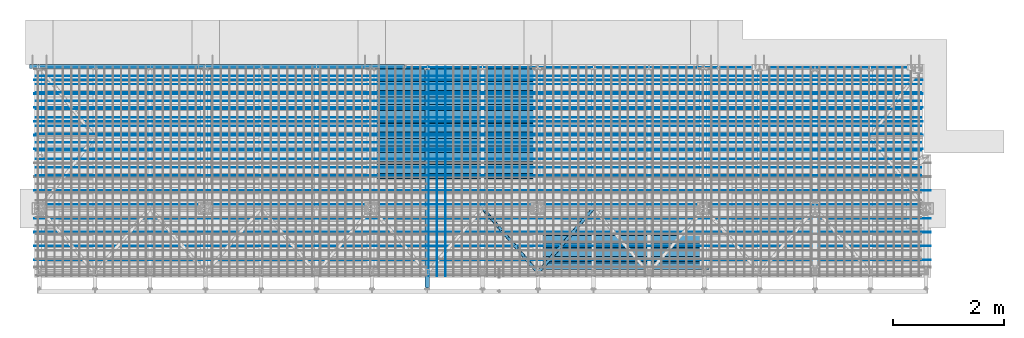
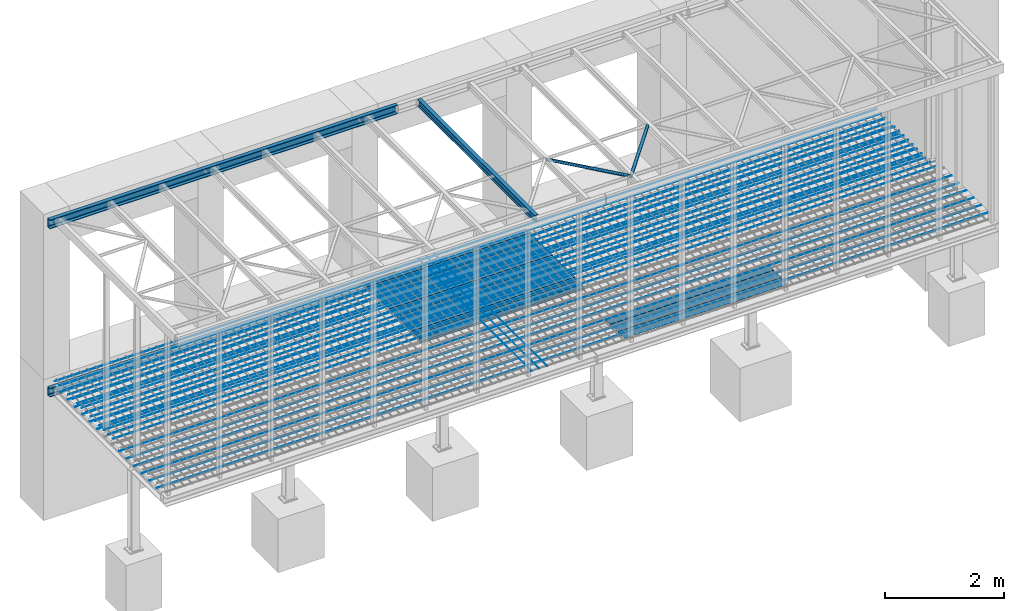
# One storey, part 6 of 26: 37 beams, 37 elements without a shape of their own.
"""IFC2X3 building model written with IfcOpenShell, lengths in millimetres."""

from ifc_helpers import new_model, si_unit, frame, origin_with_axes, origin_2d_with_axis, place, context, subcontext, project, spatial, polyline, circle, hollow_circle, i_section, u_section, outline, extrude, boolean, clip, halfspace, material, type_object, element, aggregate, save


model = new_model("IFC2X3")

# Units and contexts
model_context = context("Model", 3, precision=1e-05, world=origin_with_axes())
body_context = subcontext(model_context, "Body", "Model", "MODEL_VIEW")
ifc_project = project(units=[si_unit("LENGTHUNIT", "METRE", prefix="MILLI"), si_unit("AREAUNIT", "SQUARE_METRE"), si_unit("VOLUMEUNIT", "CUBIC_METRE"), si_unit("MASSUNIT", "GRAM", prefix="KILO"), si_unit("TIMEUNIT", "SECOND"), si_unit("PLANEANGLEUNIT", "RADIAN"), si_unit("SOLIDANGLEUNIT", "STERADIAN"), si_unit("THERMODYNAMICTEMPERATUREUNIT", "DEGREE_CELSIUS"), si_unit("LUMINOUSINTENSITYUNIT", "LUMEN")], contexts=[model_context])

# Site, building, storey
site_placement = place(None, origin_with_axes())
site = spatial("IfcSite", under=ifc_project, at=site_placement, Name="Undefined", CompositionType="ELEMENT")
building_placement = place(site_placement, origin_with_axes())
building = spatial("IfcBuilding", under=site, at=building_placement, Name="Undefined", CompositionType="ELEMENT")
storey_placement = place(building_placement, origin_with_axes())
storey = spatial("IfcBuildingStorey", under=building, at=storey_placement, Name="Undefined", CompositionType="ELEMENT", Elevation=0.0)

# Assembly, beam
assembly_1_placement = place(storey_placement, origin_with_axes())
assembly_1 = element("IfcElementAssembly", 1, at=assembly_1_placement, inside=storey, Name="Steel Assembly", AssemblyPlace="NOTDEFINED", PredefinedType="RIGID_FRAME")
ifc_material = material(Name="STEEL/S235JR")
beam_type_1 = type_object("IfcBeamType", Name="D8", PredefinedType="NOTDEFINED")
beam_1_placement = place(assembly_1_placement, frame((7377.5, 3814.99758213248, -49.0), z_axis=(0.0, 0.0, 1.0), x_axis=(0.0, -1.0, 0.0)))
beam_1 = element("IfcBeam", 2, at=beam_1_placement, type_object=beam_type_1, material=ifc_material, Name="VÝSTUZ PLECHODOSKA", ObjectType="D8", context=body_context, shape_type="SweptSolid", body=[
    extrude(circle(Radius=4.0, at=origin_2d_with_axis()), frame((3779.99758213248, 0.0, 0.0), z_axis=(-1.0, 0.0, 0.0), x_axis=(0.0, -1.0, 0.0)), (0.0, 0.0, 1.0), 3780.0),
])
aggregate(assembly_1, [beam_1])

assembly_2_placement = place(storey_placement, origin_with_axes())
assembly_2 = element("IfcElementAssembly", 3, at=assembly_2_placement, inside=storey, Name="Steel Assembly", AssemblyPlace="NOTDEFINED", PredefinedType="RIGID_FRAME")
beam_2_placement = place(assembly_2_placement, frame((7227.5, 3814.99758213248, -49.0), z_axis=(0.0, 0.0, 1.0), x_axis=(0.0, -1.0, 0.0)))
beam_2 = element("IfcBeam", 4, at=beam_2_placement, type_object=beam_type_1, material=ifc_material, Name="VÝSTUZ PLECHODOSKA", ObjectType="D8", context=body_context, shape_type="SweptSolid", body=[
    extrude(circle(Radius=4.0, at=origin_2d_with_axis()), frame((3779.99758213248, 0.0, 0.0), z_axis=(-1.0, 0.0, 0.0), x_axis=(0.0, -1.0, 0.0)), (0.0, 0.0, 1.0), 3780.0),
])
aggregate(assembly_2, [beam_2])

assembly_3_placement = place(storey_placement, origin_with_axes())
assembly_3 = element("IfcElementAssembly", 5, at=assembly_3_placement, inside=storey, Name="Steel Assembly", AssemblyPlace="NOTDEFINED", PredefinedType="RIGID_FRAME")
beam_3_placement = place(assembly_3_placement, frame((7077.5, 3814.99758213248, -49.0), z_axis=(0.0, 0.0, 1.0), x_axis=(0.0, -1.0, 0.0)))
beam_3 = element("IfcBeam", 6, at=beam_3_placement, type_object=beam_type_1, material=ifc_material, Name="VÝSTUZ PLECHODOSKA", ObjectType="D8", context=body_context, shape_type="SweptSolid", body=[
    extrude(circle(Radius=4.0, at=origin_2d_with_axis()), frame((3779.99758213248, 0.0, 0.0), z_axis=(-1.0, 0.0, 0.0), x_axis=(0.0, -1.0, 0.0)), (0.0, 0.0, 1.0), 3780.0),
])
aggregate(assembly_3, [beam_3])

assembly_4_placement = place(storey_placement, origin_with_axes())
assembly_4 = element("IfcElementAssembly", 7, at=assembly_4_placement, inside=storey, Name="Steel Assembly", AssemblyPlace="NOTDEFINED", PredefinedType="RIGID_FRAME")
beam_4_placement = place(assembly_4_placement, frame((-15.0, 1849.99758213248, -57.0), z_axis=(0.0, 0.0, 1.0), x_axis=(1.0, 0.0, 0.0)))
beam_4 = element("IfcBeam", 8, at=beam_4_placement, type_object=beam_type_1, material=ifc_material, Name="VÝSTUZ PLECHODOSKA", ObjectType="D8", context=body_context, shape_type="SweptSolid", body=[
    extrude(circle(Radius=4.0, at=origin_2d_with_axis()), frame((15985.0, 0.0, 0.0), z_axis=(-1.0, 0.0, 0.0), x_axis=(0.0, -1.0, 0.0)), (0.0, 0.0, 1.0), 15985.0),
])
aggregate(assembly_4, [beam_4])

assembly_5_placement = place(storey_placement, origin_with_axes())
assembly_5 = element("IfcElementAssembly", 9, at=assembly_5_placement, inside=storey, Name="Steel Assembly", AssemblyPlace="NOTDEFINED", PredefinedType="RIGID_FRAME")
beam_5_placement = place(assembly_5_placement, frame((-15.0, 1999.99758213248, -57.0), z_axis=(0.0, 0.0, 1.0), x_axis=(1.0, 0.0, 0.0)))
beam_5 = element("IfcBeam", 10, at=beam_5_placement, type_object=beam_type_1, material=ifc_material, Name="VÝSTUZ PLECHODOSKA", ObjectType="D8", context=body_context, shape_type="SweptSolid", body=[
    extrude(circle(Radius=4.0, at=origin_2d_with_axis()), frame((15985.0, 0.0, 0.0), z_axis=(-1.0, 0.0, 0.0), x_axis=(0.0, -1.0, 0.0)), (0.0, 0.0, 1.0), 15985.0),
])
aggregate(assembly_5, [beam_5])

assembly_6_placement = place(storey_placement, origin_with_axes())
assembly_6 = element("IfcElementAssembly", 11, at=assembly_6_placement, inside=storey, Name="Steel Assembly", AssemblyPlace="NOTDEFINED", PredefinedType="RIGID_FRAME")
beam_6_placement = place(assembly_6_placement, frame((-15.0, 2149.99758213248, -57.0), z_axis=(0.0, 0.0, 1.0), x_axis=(1.0, 0.0, 0.0)))
beam_6 = element("IfcBeam", 12, at=beam_6_placement, type_object=beam_type_1, material=ifc_material, Name="VÝSTUZ PLECHODOSKA", ObjectType="D8", context=body_context, shape_type="SweptSolid", body=[
    extrude(circle(Radius=4.0, at=origin_2d_with_axis()), frame((15985.0, 0.0, 0.0), z_axis=(-1.0, 0.0, 0.0), x_axis=(0.0, -1.0, 0.0)), (0.0, 0.0, 1.0), 15985.0),
])
aggregate(assembly_6, [beam_6])

assembly_7_placement = place(storey_placement, origin_with_axes())
assembly_7 = element("IfcElementAssembly", 13, at=assembly_7_placement, inside=storey, Name="Steel Assembly", AssemblyPlace="NOTDEFINED", PredefinedType="RIGID_FRAME")
beam_7_placement = place(assembly_7_placement, frame((-15.0, 2299.99758213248, -57.0), z_axis=(0.0, 0.0, 1.0), x_axis=(1.0, 0.0, 0.0)))
beam_7 = element("IfcBeam", 14, at=beam_7_placement, type_object=beam_type_1, material=ifc_material, Name="VÝSTUZ PLECHODOSKA", ObjectType="D8", context=body_context, shape_type="SweptSolid", body=[
    extrude(circle(Radius=4.0, at=origin_2d_with_axis()), frame((15985.0, 0.0, 0.0), z_axis=(-1.0, 0.0, 0.0), x_axis=(0.0, -1.0, 0.0)), (0.0, 0.0, 1.0), 15985.0),
])
aggregate(assembly_7, [beam_7])

assembly_8_placement = place(storey_placement, origin_with_axes())
assembly_8 = element("IfcElementAssembly", 15, at=assembly_8_placement, inside=storey, Name="Steel Assembly", AssemblyPlace="NOTDEFINED", PredefinedType="RIGID_FRAME")
beam_8_placement = place(assembly_8_placement, frame((-15.0, 2449.99758213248, -57.0), z_axis=(0.0, 0.0, 1.0), x_axis=(1.0, 0.0, 0.0)))
beam_8 = element("IfcBeam", 16, at=beam_8_placement, type_object=beam_type_1, material=ifc_material, Name="VÝSTUZ PLECHODOSKA", ObjectType="D8", context=body_context, shape_type="SweptSolid", body=[
    extrude(circle(Radius=4.0, at=origin_2d_with_axis()), frame((15985.0, 0.0, 0.0), z_axis=(-1.0, 0.0, 0.0), x_axis=(0.0, -1.0, 0.0)), (0.0, 0.0, 1.0), 15985.0),
])
aggregate(assembly_8, [beam_8])

assembly_9_placement = place(storey_placement, origin_with_axes())
assembly_9 = element("IfcElementAssembly", 17, at=assembly_9_placement, inside=storey, Name="Steel Assembly", AssemblyPlace="NOTDEFINED", PredefinedType="RIGID_FRAME")
beam_9_placement = place(assembly_9_placement, frame((-15.0, 2599.99758213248, -57.0), z_axis=(0.0, 0.0, 1.0), x_axis=(1.0, 0.0, 0.0)))
beam_9 = element("IfcBeam", 18, at=beam_9_placement, type_object=beam_type_1, material=ifc_material, Name="VÝSTUZ PLECHODOSKA", ObjectType="D8", context=body_context, shape_type="SweptSolid", body=[
    extrude(circle(Radius=4.0, at=origin_2d_with_axis()), frame((15985.0, 0.0, 0.0), z_axis=(-1.0, 0.0, 0.0), x_axis=(0.0, -1.0, 0.0)), (0.0, 0.0, 1.0), 15985.0),
])
aggregate(assembly_9, [beam_9])

assembly_10_placement = place(storey_placement, origin_with_axes())
assembly_10 = element("IfcElementAssembly", 19, at=assembly_10_placement, inside=storey, Name="Steel Assembly", AssemblyPlace="NOTDEFINED", PredefinedType="RIGID_FRAME")
beam_10_placement = place(assembly_10_placement, frame((-15.0, 2749.99758213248, -57.0), z_axis=(0.0, 0.0, 1.0), x_axis=(1.0, 0.0, 0.0)))
beam_10 = element("IfcBeam", 20, at=beam_10_placement, type_object=beam_type_1, material=ifc_material, Name="VÝSTUZ PLECHODOSKA", ObjectType="D8", context=body_context, shape_type="SweptSolid", body=[
    extrude(circle(Radius=4.0, at=origin_2d_with_axis()), frame((15985.0, 0.0, 0.0), z_axis=(-1.0, 0.0, 0.0), x_axis=(0.0, -1.0, 0.0)), (0.0, 0.0, 1.0), 15985.0),
])
aggregate(assembly_10, [beam_10])

assembly_11_placement = place(storey_placement, origin_with_axes())
assembly_11 = element("IfcElementAssembly", 21, at=assembly_11_placement, inside=storey, Name="Steel Assembly", AssemblyPlace="NOTDEFINED", PredefinedType="RIGID_FRAME")
beam_11_placement = place(assembly_11_placement, frame((-15.0, 2899.99758213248, -57.0), z_axis=(0.0, 0.0, 1.0), x_axis=(1.0, 0.0, 0.0)))
beam_11 = element("IfcBeam", 22, at=beam_11_placement, type_object=beam_type_1, material=ifc_material, Name="VÝSTUZ PLECHODOSKA", ObjectType="D8", context=body_context, shape_type="SweptSolid", body=[
    extrude(circle(Radius=4.0, at=origin_2d_with_axis()), frame((15985.0, 0.0, 0.0), z_axis=(-1.0, 0.0, 0.0), x_axis=(0.0, -1.0, 0.0)), (0.0, 0.0, 1.0), 15985.0),
])
aggregate(assembly_11, [beam_11])

assembly_12_placement = place(storey_placement, origin_with_axes())
assembly_12 = element("IfcElementAssembly", 23, at=assembly_12_placement, inside=storey, Name="Steel Assembly", AssemblyPlace="NOTDEFINED", PredefinedType="RIGID_FRAME")
beam_12_placement = place(assembly_12_placement, frame((-15.0, 3049.99758213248, -57.0), z_axis=(0.0, 0.0, 1.0), x_axis=(1.0, 0.0, 0.0)))
beam_12 = element("IfcBeam", 24, at=beam_12_placement, type_object=beam_type_1, material=ifc_material, Name="VÝSTUZ PLECHODOSKA", ObjectType="D8", context=body_context, shape_type="SweptSolid", body=[
    extrude(circle(Radius=4.0, at=origin_2d_with_axis()), frame((15985.0, 0.0, 0.0), z_axis=(-1.0, 0.0, 0.0), x_axis=(0.0, -1.0, 0.0)), (0.0, 0.0, 1.0), 15985.0),
])
aggregate(assembly_12, [beam_12])

assembly_13_placement = place(storey_placement, origin_with_axes())
assembly_13 = element("IfcElementAssembly", 25, at=assembly_13_placement, inside=storey, Name="Steel Assembly", AssemblyPlace="NOTDEFINED", PredefinedType="RIGID_FRAME")
beam_13_placement = place(assembly_13_placement, frame((-15.0, 3199.99758213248, -57.0), z_axis=(0.0, 0.0, 1.0), x_axis=(1.0, 0.0, 0.0)))
beam_13 = element("IfcBeam", 26, at=beam_13_placement, type_object=beam_type_1, material=ifc_material, Name="VÝSTUZ PLECHODOSKA", ObjectType="D8", context=body_context, shape_type="SweptSolid", body=[
    extrude(circle(Radius=4.0, at=origin_2d_with_axis()), frame((15985.0, 0.0, 0.0), z_axis=(-1.0, 0.0, 0.0), x_axis=(0.0, -1.0, 0.0)), (0.0, 0.0, 1.0), 15985.0),
])
aggregate(assembly_13, [beam_13])

assembly_14_placement = place(storey_placement, origin_with_axes())
assembly_14 = element("IfcElementAssembly", 27, at=assembly_14_placement, inside=storey, Name="Steel Assembly", AssemblyPlace="NOTDEFINED", PredefinedType="RIGID_FRAME")
beam_14_placement = place(assembly_14_placement, frame((-15.0, 3349.99758213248, -57.0), z_axis=(0.0, 0.0, 1.0), x_axis=(1.0, 0.0, 0.0)))
beam_14 = element("IfcBeam", 28, at=beam_14_placement, type_object=beam_type_1, material=ifc_material, Name="VÝSTUZ PLECHODOSKA", ObjectType="D8", context=body_context, shape_type="SweptSolid", body=[
    extrude(circle(Radius=4.0, at=origin_2d_with_axis()), frame((15985.0, 0.0, 0.0), z_axis=(-1.0, 0.0, 0.0), x_axis=(0.0, -1.0, 0.0)), (0.0, 0.0, 1.0), 15985.0),
])
aggregate(assembly_14, [beam_14])

assembly_15_placement = place(storey_placement, origin_with_axes())
assembly_15 = element("IfcElementAssembly", 29, at=assembly_15_placement, inside=storey, Name="Steel Assembly", AssemblyPlace="NOTDEFINED", PredefinedType="RIGID_FRAME")
beam_15_placement = place(assembly_15_placement, frame((-15.0, 3499.99758213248, -57.0), z_axis=(0.0, 0.0, 1.0), x_axis=(1.0, 0.0, 0.0)))
beam_15 = element("IfcBeam", 30, at=beam_15_placement, type_object=beam_type_1, material=ifc_material, Name="VÝSTUZ PLECHODOSKA", ObjectType="D8", context=body_context, shape_type="SweptSolid", body=[
    extrude(circle(Radius=4.0, at=origin_2d_with_axis()), frame((15985.0, 0.0, 0.0), z_axis=(-1.0, 0.0, 0.0), x_axis=(0.0, -1.0, 0.0)), (0.0, 0.0, 1.0), 15985.0),
])
aggregate(assembly_15, [beam_15])

assembly_16_placement = place(storey_placement, origin_with_axes())
assembly_16 = element("IfcElementAssembly", 31, at=assembly_16_placement, inside=storey, Name="Steel Assembly", AssemblyPlace="NOTDEFINED", PredefinedType="RIGID_FRAME")
beam_16_placement = place(assembly_16_placement, frame((-15.0, 3649.99758213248, -57.0), z_axis=(0.0, 0.0, 1.0), x_axis=(1.0, 0.0, 0.0)))
beam_16 = element("IfcBeam", 32, at=beam_16_placement, type_object=beam_type_1, material=ifc_material, Name="VÝSTUZ PLECHODOSKA", ObjectType="D8", context=body_context, shape_type="SweptSolid", body=[
    extrude(circle(Radius=4.0, at=origin_2d_with_axis()), frame((15985.0, 0.0, 0.0), z_axis=(-1.0, 0.0, 0.0), x_axis=(0.0, -1.0, 0.0)), (0.0, 0.0, 1.0), 15985.0),
])
aggregate(assembly_16, [beam_16])

assembly_17_placement = place(storey_placement, origin_with_axes())
assembly_17 = element("IfcElementAssembly", 33, at=assembly_17_placement, inside=storey, Name="Steel Assembly", AssemblyPlace="NOTDEFINED", PredefinedType="RIGID_FRAME")
beam_17_placement = place(assembly_17_placement, frame((-15.0, 3799.99758213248, -57.0), z_axis=(0.0, 0.0, 1.0), x_axis=(1.0, 0.0, 0.0)))
beam_17 = element("IfcBeam", 34, at=beam_17_placement, type_object=beam_type_1, material=ifc_material, Name="VÝSTUZ PLECHODOSKA", ObjectType="D8", context=body_context, shape_type="SweptSolid", body=[
    extrude(circle(Radius=4.0, at=origin_2d_with_axis()), frame((15985.0, 0.0, 0.0), z_axis=(-1.0, 0.0, 0.0), x_axis=(0.0, -1.0, 0.0)), (0.0, 0.0, 1.0), 15985.0),
])
aggregate(assembly_17, [beam_17])

assembly_18_placement = place(storey_placement, origin_with_axes())
assembly_18 = element("IfcElementAssembly", 35, at=assembly_18_placement, inside=storey, Name="Steel Assembly", AssemblyPlace="NOTDEFINED", PredefinedType="RIGID_FRAME")
beam_type_2 = type_object("IfcBeamType", Name="D12", PredefinedType="NOTDEFINED")
beam_18_placement = place(assembly_18_placement, frame((-40.0, 329.992561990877, -139.0), z_axis=(0.0, 0.0, 1.0), x_axis=(1.0, 0.0, 0.0)))
beam_18 = element("IfcBeam", 36, at=beam_18_placement, type_object=beam_type_2, material=ifc_material, Name="VÝSTUZ PLECHODOSKA", ObjectType="D12", context=body_context, shape_type="SweptSolid", body=[
    extrude(circle(Radius=6.0, at=origin_2d_with_axis()), frame((16180.0, 0.0, 0.0), z_axis=(-1.0, 0.0, 0.0), x_axis=(0.0, -1.0, 0.0)), (0.0, 0.0, 1.0), 16180.0),
])
aggregate(assembly_18, [beam_18])

assembly_19_placement = place(storey_placement, origin_with_axes())
assembly_19 = element("IfcElementAssembly", 37, at=assembly_19_placement, inside=storey, Name="Steel Assembly", AssemblyPlace="NOTDEFINED", PredefinedType="RIGID_FRAME")
beam_19_placement = place(assembly_19_placement, frame((-40.0, 579.992561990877, -139.0), z_axis=(0.0, 0.0, 1.0), x_axis=(1.0, 0.0, 0.0)))
beam_19 = element("IfcBeam", 38, at=beam_19_placement, type_object=beam_type_2, material=ifc_material, Name="VÝSTUZ PLECHODOSKA", ObjectType="D12", context=body_context, shape_type="SweptSolid", body=[
    extrude(circle(Radius=6.0, at=origin_2d_with_axis()), frame((16180.0, 0.0, 0.0), z_axis=(-1.0, 0.0, 0.0), x_axis=(0.0, -1.0, 0.0)), (0.0, 0.0, 1.0), 16180.0),
])
aggregate(assembly_19, [beam_19])

assembly_20_placement = place(storey_placement, origin_with_axes())
assembly_20 = element("IfcElementAssembly", 39, at=assembly_20_placement, inside=storey, Name="Steel Assembly", AssemblyPlace="NOTDEFINED", PredefinedType="RIGID_FRAME")
beam_20_placement = place(assembly_20_placement, frame((-40.0, 829.992561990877, -139.0), z_axis=(0.0, 0.0, 1.0), x_axis=(1.0, 0.0, 0.0)))
beam_20 = element("IfcBeam", 40, at=beam_20_placement, type_object=beam_type_2, material=ifc_material, Name="VÝSTUZ PLECHODOSKA", ObjectType="D12", context=body_context, shape_type="SweptSolid", body=[
    extrude(circle(Radius=6.0, at=origin_2d_with_axis()), frame((16180.0, 0.0, 0.0), z_axis=(-1.0, 0.0, 0.0), x_axis=(0.0, -1.0, 0.0)), (0.0, 0.0, 1.0), 16180.0),
])
aggregate(assembly_20, [beam_20])

assembly_21_placement = place(storey_placement, origin_with_axes())
assembly_21 = element("IfcElementAssembly", 41, at=assembly_21_placement, inside=storey, Name="Steel Assembly", AssemblyPlace="NOTDEFINED", PredefinedType="RIGID_FRAME")
beam_21_placement = place(assembly_21_placement, frame((-40.0, 1079.99256199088, -139.0), z_axis=(0.0, 0.0, 1.0), x_axis=(1.0, 0.0, 0.0)))
beam_21 = element("IfcBeam", 42, at=beam_21_placement, type_object=beam_type_2, material=ifc_material, Name="VÝSTUZ PLECHODOSKA", ObjectType="D12", context=body_context, shape_type="SweptSolid", body=[
    extrude(circle(Radius=6.0, at=origin_2d_with_axis()), frame((16180.0, 0.0, 0.0), z_axis=(-1.0, 0.0, 0.0), x_axis=(0.0, -1.0, 0.0)), (0.0, 0.0, 1.0), 16180.0),
])
aggregate(assembly_21, [beam_21])

assembly_22_placement = place(storey_placement, origin_with_axes())
assembly_22 = element("IfcElementAssembly", 43, at=assembly_22_placement, inside=storey, Name="Steel Assembly", AssemblyPlace="NOTDEFINED", PredefinedType="RIGID_FRAME")
beam_22_placement = place(assembly_22_placement, frame((-40.0, 1329.99256199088, -139.0), z_axis=(0.0, 0.0, 1.0), x_axis=(1.0, 0.0, 0.0)))
beam_22 = element("IfcBeam", 44, at=beam_22_placement, type_object=beam_type_2, material=ifc_material, Name="VÝSTUZ PLECHODOSKA", ObjectType="D12", context=body_context, shape_type="SweptSolid", body=[
    extrude(circle(Radius=6.0, at=origin_2d_with_axis()), frame((16180.0, 0.0, 0.0), z_axis=(-1.0, 0.0, 0.0), x_axis=(0.0, -1.0, 0.0)), (0.0, 0.0, 1.0), 16180.0),
])
aggregate(assembly_22, [beam_22])

assembly_23_placement = place(storey_placement, origin_with_axes())
assembly_23 = element("IfcElementAssembly", 45, at=assembly_23_placement, inside=storey, Name="Steel Assembly", AssemblyPlace="NOTDEFINED", PredefinedType="RIGID_FRAME")
beam_23_placement = place(assembly_23_placement, frame((-40.0, 1579.99256199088, -139.0), z_axis=(0.0, 0.0, 1.0), x_axis=(1.0, 0.0, 0.0)))
beam_23 = element("IfcBeam", 46, at=beam_23_placement, type_object=beam_type_2, material=ifc_material, Name="VÝSTUZ PLECHODOSKA", ObjectType="D12", context=body_context, shape_type="SweptSolid", body=[
    extrude(circle(Radius=6.0, at=origin_2d_with_axis()), frame((16180.0, 0.0, 0.0), z_axis=(-1.0, 0.0, 0.0), x_axis=(0.0, -1.0, 0.0)), (0.0, 0.0, 1.0), 16180.0),
])
aggregate(assembly_23, [beam_23])

assembly_24_placement = place(storey_placement, origin_with_axes())
assembly_24 = element("IfcElementAssembly", 47, at=assembly_24_placement, inside=storey, Name="Steel Assembly", AssemblyPlace="NOTDEFINED", PredefinedType="RIGID_FRAME")
beam_24_placement = place(assembly_24_placement, frame((-40.0, 2329.99256199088, -139.0), z_axis=(0.0, 0.0, 1.0), x_axis=(1.0, 0.0, 0.0)))
beam_24 = element("IfcBeam", 48, at=beam_24_placement, type_object=beam_type_2, material=ifc_material, Name="VÝSTUZ PLECHODOSKA", ObjectType="D12", context=body_context, shape_type="SweptSolid", body=[
    extrude(circle(Radius=6.0, at=origin_2d_with_axis()), frame((16035.0, 0.0, 0.0), z_axis=(-1.0, 0.0, 0.0), x_axis=(0.0, -1.0, 0.0)), (0.0, 0.0, 1.0), 16035.0),
])
aggregate(assembly_24, [beam_24])

assembly_25_placement = place(storey_placement, origin_with_axes())
assembly_25 = element("IfcElementAssembly", 49, at=assembly_25_placement, inside=storey, Name="Steel Assembly", AssemblyPlace="NOTDEFINED", PredefinedType="RIGID_FRAME")
beam_25_placement = place(assembly_25_placement, frame((-40.0, 2579.99256199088, -139.0), z_axis=(0.0, 0.0, 1.0), x_axis=(1.0, 0.0, 0.0)))
beam_25 = element("IfcBeam", 50, at=beam_25_placement, type_object=beam_type_2, material=ifc_material, Name="VÝSTUZ PLECHODOSKA", ObjectType="D12", context=body_context, shape_type="SweptSolid", body=[
    extrude(circle(Radius=6.0, at=origin_2d_with_axis()), frame((16035.0, 0.0, 0.0), z_axis=(-1.0, 0.0, 0.0), x_axis=(0.0, -1.0, 0.0)), (0.0, 0.0, 1.0), 16035.0),
])
aggregate(assembly_25, [beam_25])

assembly_26_placement = place(storey_placement, origin_with_axes())
assembly_26 = element("IfcElementAssembly", 51, at=assembly_26_placement, inside=storey, Name="Steel Assembly", AssemblyPlace="NOTDEFINED", PredefinedType="RIGID_FRAME")
beam_26_placement = place(assembly_26_placement, frame((-40.0, 2829.99256199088, -139.0), z_axis=(0.0, 0.0, 1.0), x_axis=(1.0, 0.0, 0.0)))
beam_26 = element("IfcBeam", 52, at=beam_26_placement, type_object=beam_type_2, material=ifc_material, Name="VÝSTUZ PLECHODOSKA", ObjectType="D12", context=body_context, shape_type="SweptSolid", body=[
    extrude(circle(Radius=6.0, at=origin_2d_with_axis()), frame((16035.0, 0.0, 0.0), z_axis=(-1.0, 0.0, 0.0), x_axis=(0.0, -1.0, 0.0)), (0.0, 0.0, 1.0), 16035.0),
])
aggregate(assembly_26, [beam_26])

assembly_27_placement = place(storey_placement, origin_with_axes())
assembly_27 = element("IfcElementAssembly", 53, at=assembly_27_placement, inside=storey, Name="Steel Assembly", AssemblyPlace="NOTDEFINED", PredefinedType="RIGID_FRAME")
beam_27_placement = place(assembly_27_placement, frame((-40.0, 3079.99256199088, -139.0), z_axis=(0.0, 0.0, 1.0), x_axis=(1.0, 0.0, 0.0)))
beam_27 = element("IfcBeam", 54, at=beam_27_placement, type_object=beam_type_2, material=ifc_material, Name="VÝSTUZ PLECHODOSKA", ObjectType="D12", context=body_context, shape_type="SweptSolid", body=[
    extrude(circle(Radius=6.0, at=origin_2d_with_axis()), frame((16035.0, 0.0, 0.0), z_axis=(-1.0, 0.0, 0.0), x_axis=(0.0, -1.0, 0.0)), (0.0, 0.0, 1.0), 16035.0),
])
aggregate(assembly_27, [beam_27])

assembly_28_placement = place(storey_placement, origin_with_axes())
assembly_28 = element("IfcElementAssembly", 55, at=assembly_28_placement, inside=storey, Name="Steel Assembly", AssemblyPlace="NOTDEFINED", PredefinedType="RIGID_FRAME")
beam_28_placement = place(assembly_28_placement, frame((-40.0, 3329.99256199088, -139.0), z_axis=(0.0, 0.0, 1.0), x_axis=(1.0, 0.0, 0.0)))
beam_28 = element("IfcBeam", 56, at=beam_28_placement, type_object=beam_type_2, material=ifc_material, Name="VÝSTUZ PLECHODOSKA", ObjectType="D12", context=body_context, shape_type="SweptSolid", body=[
    extrude(circle(Radius=6.0, at=origin_2d_with_axis()), frame((16035.0, 0.0, 0.0), z_axis=(-1.0, 0.0, 0.0), x_axis=(0.0, -1.0, 0.0)), (0.0, 0.0, 1.0), 16035.0),
])
aggregate(assembly_28, [beam_28])

assembly_29_placement = place(storey_placement, origin_with_axes())
assembly_29 = element("IfcElementAssembly", 57, at=assembly_29_placement, inside=storey, Name="Steel Assembly", AssemblyPlace="NOTDEFINED", PredefinedType="RIGID_FRAME")
beam_29_placement = place(assembly_29_placement, frame((-40.0, 3579.99256199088, -139.0), z_axis=(0.0, 0.0, 1.0), x_axis=(1.0, 0.0, 0.0)))
beam_29 = element("IfcBeam", 58, at=beam_29_placement, type_object=beam_type_2, material=ifc_material, Name="VÝSTUZ PLECHODOSKA", ObjectType="D12", context=body_context, shape_type="SweptSolid", body=[
    extrude(circle(Radius=6.0, at=origin_2d_with_axis()), frame((16035.0, 0.0, 0.0), z_axis=(-1.0, 0.0, 0.0), x_axis=(0.0, -1.0, 0.0)), (0.0, 0.0, 1.0), 16035.0),
])
aggregate(assembly_29, [beam_29])

assembly_30_placement = place(storey_placement, origin_with_axes())
assembly_30 = element("IfcElementAssembly", 59, at=assembly_30_placement, inside=storey, Name="Steel Assembly", AssemblyPlace="NOTDEFINED", PredefinedType="RIGID_FRAME")
beam_type_3 = type_object("IfcBeamType", Name="TR50/250", PredefinedType="NOTDEFINED")
beam_30_placement = place(assembly_30_placement, frame((8960.0, 315.047569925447, -135.38), z_axis=(0.0, 0.0, 1.0), x_axis=(1.0, 0.0, 0.0)))
beam_30 = element("IfcBeam", 60, at=beam_30_placement, type_object=beam_type_3, material=ifc_material, Name="Trapézový plech", ObjectType="TR50/250", context=body_context, shape_type="Clipping", body=[
    clip(extrude(outline(polyline([(-487.739990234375, -24.6299991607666), (-524.950012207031, -24.6200008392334), (-524.950012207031, -23.8700008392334), (-488.149993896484, -23.8700008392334), (-457.649993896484, 24.6299991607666), (-322.239990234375, 24.6299991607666), (-291.739990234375, -23.8700008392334), (-238.149993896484, -23.8700008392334), (-207.649993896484, 24.6299991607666), (-72.2399978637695, 24.6299991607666), (-41.7400016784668, -23.8700008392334), (11.8500003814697, -23.8700008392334), (42.3499984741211, 24.6299991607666), (177.759994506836, 24.6299991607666), (208.259994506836, -23.8700008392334), (261.850006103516, -23.8700008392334), (292.350006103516, 24.6299991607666), (427.760009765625, 24.6299991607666), (458.260009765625, -23.8700008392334), (511.850006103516, -23.8700008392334), (524.309997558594, -4.05000019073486), (524.950012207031, -4.44999980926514), (512.260009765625, -24.6200008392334), (457.850006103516, -24.6200008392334), (427.350006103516, 23.8799991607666), (292.760009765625, 23.8799991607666), (262.260009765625, -24.6200008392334), (207.850006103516, -24.6200008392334), (177.350006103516, 23.8799991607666), (42.7599983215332, 23.8799991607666), (12.2600002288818, -24.6200008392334), (-42.1500015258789, -24.6200008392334), (-72.6500015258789, 23.8799991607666), (-207.240005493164, 23.8799991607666), (-237.740005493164, -24.6200008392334), (-292.149993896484, -24.6200008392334), (-322.649993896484, 23.8799991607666), (-457.239990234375, 23.8799991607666), (-487.739990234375, -24.6299991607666)])), frame((3180.0, 0.0, 0.0), z_axis=(-1.0, 0.0, 0.0), x_axis=(0.0, -1.0, 0.0)), (0.0, 0.0, 1.0), 3180.0), halfspace(frame((365.0, -155.047569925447, -55.0), z_axis=(0.0, -1.0, 0.0), x_axis=(0.0, 0.0, 1.0)), False)),
])
aggregate(assembly_30, [beam_30])

assembly_31_placement = place(storey_placement, origin_with_axes())
assembly_31 = element("IfcElementAssembly", 61, at=assembly_31_placement, inside=storey, Name="Steel Assembly", AssemblyPlace="NOTDEFINED", PredefinedType="RIGID_FRAME")
beam_31_placement = place(assembly_31_placement, frame((5960.0, 2315.04756992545, -135.38), z_axis=(0.0, 0.0, 1.0), x_axis=(1.0, 0.0, 0.0)))
beam_31 = element("IfcBeam", 62, at=beam_31_placement, type_object=beam_type_3, material=ifc_material, Name="Trapézový plech", ObjectType="TR50/250", context=body_context, shape_type="SweptSolid", body=[
    extrude(outline(polyline([(-487.739990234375, -24.6299991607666), (-524.950012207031, -24.6200008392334), (-524.950012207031, -23.8700008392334), (-488.149993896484, -23.8700008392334), (-457.649993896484, 24.6299991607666), (-322.239990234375, 24.6299991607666), (-291.739990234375, -23.8700008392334), (-238.149993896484, -23.8700008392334), (-207.649993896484, 24.6299991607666), (-72.2399978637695, 24.6299991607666), (-41.7400016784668, -23.8700008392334), (11.8500003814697, -23.8700008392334), (42.3499984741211, 24.6299991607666), (177.759994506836, 24.6299991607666), (208.259994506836, -23.8700008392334), (261.850006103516, -23.8700008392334), (292.350006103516, 24.6299991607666), (427.760009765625, 24.6299991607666), (458.260009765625, -23.8700008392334), (511.850006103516, -23.8700008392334), (524.309997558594, -4.05000019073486), (524.950012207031, -4.44999980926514), (512.260009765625, -24.6200008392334), (457.850006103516, -24.6200008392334), (427.350006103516, 23.8799991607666), (292.760009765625, 23.8799991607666), (262.260009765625, -24.6200008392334), (207.850006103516, -24.6200008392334), (177.350006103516, 23.8799991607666), (42.7599983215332, 23.8799991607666), (12.2600002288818, -24.6200008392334), (-42.1500015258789, -24.6200008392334), (-72.6500015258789, 23.8799991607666), (-207.240005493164, 23.8799991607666), (-237.740005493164, -24.6200008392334), (-292.149993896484, -24.6200008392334), (-322.649993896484, 23.8799991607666), (-457.239990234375, 23.8799991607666), (-487.739990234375, -24.6299991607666)])), frame((3180.0, 0.0, 0.0), z_axis=(-1.0, 0.0, 0.0), x_axis=(0.0, -1.0, 0.0)), (0.0, 0.0, 1.0), 3180.0),
])
aggregate(assembly_31, [beam_31])

assembly_32_placement = place(storey_placement, origin_with_axes())
assembly_32 = element("IfcElementAssembly", 63, at=assembly_32_placement, inside=storey, Name="Steel Assembly", AssemblyPlace="NOTDEFINED", PredefinedType="RIGID_FRAME")
beam_32_placement = place(assembly_32_placement, frame((5960.0, 3315.04756992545, -135.38), z_axis=(0.0, 0.0, 1.0), x_axis=(1.0, 0.0, 0.0)))
beam_32 = element("IfcBeam", 64, at=beam_32_placement, type_object=beam_type_3, material=ifc_material, Name="Trapézový plech", ObjectType="TR50/250", context=body_context, shape_type="SweptSolid", body=[
    extrude(outline(polyline([(-487.739990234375, -24.6299991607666), (-524.950012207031, -24.6200008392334), (-524.950012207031, -23.8700008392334), (-488.149993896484, -23.8700008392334), (-457.649993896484, 24.6299991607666), (-322.239990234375, 24.6299991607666), (-291.739990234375, -23.8700008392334), (-238.149993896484, -23.8700008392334), (-207.649993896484, 24.6299991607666), (-72.2399978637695, 24.6299991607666), (-41.7400016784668, -23.8700008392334), (11.8500003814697, -23.8700008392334), (42.3499984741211, 24.6299991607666), (177.759994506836, 24.6299991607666), (208.259994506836, -23.8700008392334), (261.850006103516, -23.8700008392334), (292.350006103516, 24.6299991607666), (427.760009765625, 24.6299991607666), (458.260009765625, -23.8700008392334), (511.850006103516, -23.8700008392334), (524.309997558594, -4.05000019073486), (524.950012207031, -4.44999980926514), (512.260009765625, -24.6200008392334), (457.850006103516, -24.6200008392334), (427.350006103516, 23.8799991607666), (292.760009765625, 23.8799991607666), (262.260009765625, -24.6200008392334), (207.850006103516, -24.6200008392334), (177.350006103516, 23.8799991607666), (42.7599983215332, 23.8799991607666), (12.2600002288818, -24.6200008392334), (-42.1500015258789, -24.6200008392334), (-72.6500015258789, 23.8799991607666), (-207.240005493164, 23.8799991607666), (-237.740005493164, -24.6200008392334), (-292.149993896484, -24.6200008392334), (-322.649993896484, 23.8799991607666), (-457.239990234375, 23.8799991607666), (-487.739990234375, -24.6299991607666)])), frame((3180.0, 0.0, 0.0), z_axis=(-1.0, 0.0, 0.0), x_axis=(0.0, -1.0, 0.0)), (0.0, 0.0, 1.0), 3180.0),
])
aggregate(assembly_32, [beam_32])

assembly_33_placement = place(storey_placement, origin_with_axes())
assembly_33 = element("IfcElementAssembly", 65, at=assembly_33_placement, inside=storey, Name="Steel Assembly", AssemblyPlace="NOTDEFINED", PredefinedType="RIGID_FRAME")
beam_type_4 = type_object("IfcBeamType", Name="UPE180", PredefinedType="NOTDEFINED")
beam_33_placement = place(assembly_33_placement, frame((6640.0, 3822.5, 3210.0), z_axis=(0.0, 0.0, -1.0), x_axis=(-1.0, 0.0, 0.0)))
beam_33 = element("IfcBeam", 66, at=beam_33_placement, type_object=beam_type_4, material=ifc_material, Name="NOSNÍK", ObjectType="UPE180", context=body_context, shape_type="SweptSolid", body=[
    extrude(u_section(Depth=180.0, FlangeWidth=75.0, WebThickness=5.5, FlangeThickness=10.5, FilletRadius=12.0, at=origin_2d_with_axis()), frame((6765.0, 0.0, 0.0), z_axis=(-1.0, 0.0, 0.0), x_axis=(0.0, -1.0, 0.0)), (0.0, 0.0, 1.0), 6765.0),
])
aggregate(assembly_33, [beam_33])

assembly_34_placement = place(storey_placement, origin_with_axes())
assembly_34 = element("IfcElementAssembly", 67, at=assembly_34_placement, inside=storey, Name="Steel Assembly", AssemblyPlace="NOTDEFINED", PredefinedType="RIGID_FRAME")
beam_34_placement = place(assembly_34_placement, frame((6640.0, 3822.5, -250.0), z_axis=(0.0, 0.0, -1.0), x_axis=(-1.0, 0.0, 0.0)))
beam_34 = element("IfcBeam", 68, at=beam_34_placement, type_object=beam_type_4, material=ifc_material, Name="NOSNÍK", ObjectType="UPE180", context=body_context, shape_type="SweptSolid", body=[
    extrude(u_section(Depth=180.0, FlangeWidth=75.0, WebThickness=5.5, FlangeThickness=10.5, FilletRadius=12.0, at=origin_2d_with_axis()), frame((6765.0, 0.0, 0.0), z_axis=(-1.0, 0.0, 0.0), x_axis=(0.0, -1.0, 0.0)), (0.0, 0.0, 1.0), 6765.0),
])
aggregate(assembly_34, [beam_34])

assembly_35_placement = place(storey_placement, origin_with_axes())
assembly_35 = element("IfcElementAssembly", 69, at=assembly_35_placement, inside=storey, Name="Steel Assembly", AssemblyPlace="NOTDEFINED", PredefinedType="RIGID_FRAME")
beam_type_5 = type_object("IfcBeamType", Name="CHS60.3*5", PredefinedType="NOTDEFINED")
beam_35_placement = place(assembly_35_placement, frame((9050.0, 100.0, 3230.0), z_axis=(0.0, 0.0, -1.0), x_axis=(0.652939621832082, 0.757409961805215, 0.0)))
beam_35 = element("IfcBeam", 70, at=beam_35_placement, type_object=beam_type_5, material=ifc_material, Name="NOSNÍK", ObjectType="CHS60.3*5", context=body_context, shape_type="CSG", body=[
    boolean("DIFFERENCE", boolean("DIFFERENCE", boolean("DIFFERENCE", boolean("DIFFERENCE", extrude(hollow_circle(Radius=30.15, WallThickness=5.0, at=origin_2d_with_axis()), frame((1531.53517752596, -1.81898940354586e-12, 0.0), z_axis=(-1.0, 0.0, 0.0), x_axis=(0.0, -1.0, 0.0)), (0.0, 0.0, 1.0), 1531.5), extrude(hollow_circle(Radius=30.15, WallThickness=5.0, at=origin_2d_with_axis()), frame((1530.00076941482, -1.77991293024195, 0.0), z_axis=(-0.652939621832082, -0.757409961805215, 0.0), x_axis=(0.757409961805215, -0.652939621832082, 0.0)), (0.0, 0.0, 1.0), 995.3)), extrude(hollow_circle(Radius=30.15, WallThickness=5.0, at=origin_2d_with_axis()), frame((651.405213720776, 755.630048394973, 0.0), z_axis=(-0.652939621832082, -0.757409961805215, 0.0), x_axis=(0.757409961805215, -0.652939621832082, 0.0)), (0.0, 0.0, 1.0), 995.3)), halfspace(frame((1562.9100704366, -30.1499999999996, -30.1500000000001), z_axis=(0.652939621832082, 0.757409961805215, 0.0), x_axis=(0.0, 0.0, 1.0)), False)), halfspace(frame((-31.3748924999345, 30.1499999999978, -30.1500000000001), z_axis=(-0.652939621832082, -0.757409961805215, 0.0), x_axis=(0.0, 0.0, 1.0)), False)),
])
aggregate(assembly_35, [beam_35])

assembly_36_placement = place(storey_placement, origin_with_axes())
assembly_36 = element("IfcElementAssembly", 71, at=assembly_36_placement, inside=storey, Name="Steel Assembly", AssemblyPlace="NOTDEFINED", PredefinedType="RIGID_FRAME")
beam_36_placement = place(assembly_36_placement, frame((8049.99999972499, 1260.00000021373, 3230.0), z_axis=(0.0, 0.0, -1.0), x_axis=(0.652939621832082, -0.757409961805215, 0.0)))
beam_36 = element("IfcBeam", 72, at=beam_36_placement, type_object=beam_type_5, material=ifc_material, Name="NOSNÍK", ObjectType="CHS60.3*5", context=body_context, shape_type="CSG", body=[
    boolean("DIFFERENCE", boolean("DIFFERENCE", boolean("DIFFERENCE", boolean("DIFFERENCE", extrude(hollow_circle(Radius=30.15, WallThickness=5.0, at=origin_2d_with_axis()), frame((1531.53517752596, -1.81898940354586e-12, 0.0), z_axis=(-1.0, 0.0, 0.0), x_axis=(0.0, -1.0, 0.0)), (0.0, 0.0, 1.0), 1531.5), extrude(hollow_circle(Radius=30.15, WallThickness=5.0, at=origin_2d_with_axis()), frame((651.405214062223, -755.630048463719, 0.0), z_axis=(-0.652939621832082, 0.757409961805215, 0.0), x_axis=(-0.757409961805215, -0.652939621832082, 0.0)), (0.0, 0.0, 1.0), 995.3)), extrude(hollow_circle(Radius=30.15, WallThickness=5.0, at=origin_2d_with_axis()), frame((1530.00076975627, 1.77991286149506, 9.09494701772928e-13), z_axis=(-0.652939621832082, 0.757409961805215, 0.0), x_axis=(-0.757409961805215, -0.652939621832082, 0.0)), (0.0, 0.0, 1.0), 995.3)), halfspace(frame((38.5731081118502, 30.1499999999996, -30.1499999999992), z_axis=(-0.652939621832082, 0.757409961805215, 0.0), x_axis=(0.0, 0.0, 1.0)), False)), halfspace(frame((1562.91007051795, 30.1499999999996, 30.150000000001), z_axis=(0.652939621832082, -0.757409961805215, 0.0), x_axis=(0.0, 0.0, -1.0)), False)),
])
aggregate(assembly_36, [beam_36])

assembly_37_placement = place(storey_placement, origin_with_axes())
assembly_37 = element("IfcElementAssembly", 73, at=assembly_37_placement, inside=storey, Name="Steel Assembly", AssemblyPlace="NOTDEFINED", PredefinedType="RIGID_FRAME")
beam_type_6 = type_object("IfcBeamType", Name="IPE140", PredefinedType="NOTDEFINED")
beam_37_placement = place(assembly_37_placement, frame((7050.0, -180.0, 3230.0), z_axis=(0.0, 0.0, 1.0), x_axis=(0.0, 1.0, 0.0)))
beam_37 = element("IfcBeam", 74, at=beam_37_placement, type_object=beam_type_6, material=ifc_material, Name="NOSNÍK", ObjectType="IPE140", context=body_context, shape_type="SweptSolid", body=[
    extrude(i_section(OverallWidth=73.0, OverallDepth=140.0, WebThickness=4.699999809, FlangeThickness=6.900000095, FilletRadius=7.0, at=origin_2d_with_axis()), frame((3947.0, 0.0, 0.0), z_axis=(-1.0, 0.0, 0.0), x_axis=(0.0, -1.0, 0.0)), (0.0, 0.0, 1.0), 3947.0),
])
aggregate(assembly_37, [beam_37])

save(model, "model.ifc")
